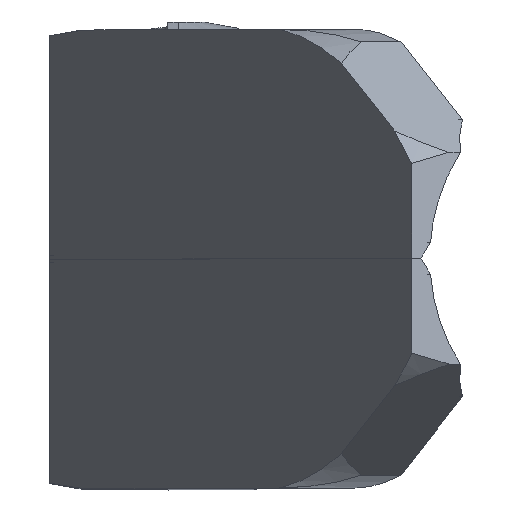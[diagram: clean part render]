
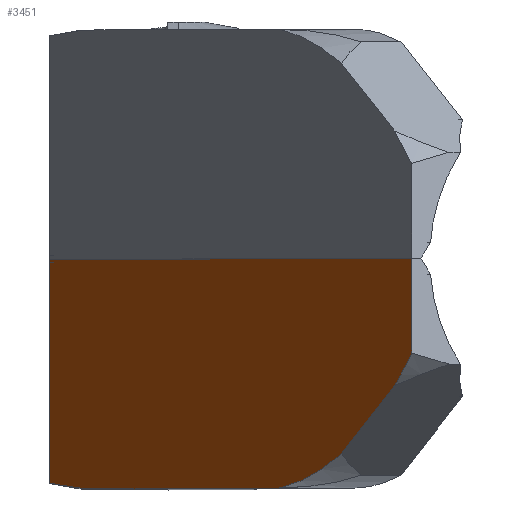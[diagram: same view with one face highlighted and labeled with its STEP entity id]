
A CAD part, top view. The second image highlights one B-rep face of the part: STEP entity #3451.
In plain terms, the highlighted planar face has unit normal (-0.866, 0, 0.5).
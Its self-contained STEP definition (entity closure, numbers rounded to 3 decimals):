
#73 = EDGE_CURVE ( 'NONE', #4673, #4752, #692, .T. ) ;
#78 = EDGE_CURVE ( 'NONE', #4509, #4508, #1002, .T. ) ;
#169 = ORIENTED_EDGE ( 'NONE', *, *, #78, .F. ) ;
#170 = ORIENTED_EDGE ( 'NONE', *, *, #1269, .F. ) ;
#171 = ORIENTED_EDGE ( 'NONE', *, *, #3263, .F. ) ;
#172 = ORIENTED_EDGE ( 'NONE', *, *, #675, .T. ) ;
#173 = ORIENTED_EDGE ( 'NONE', *, *, #1265, .F. ) ;
#174 = ORIENTED_EDGE ( 'NONE', *, *, #676, .F. ) ;
#175 = ORIENTED_EDGE ( 'NONE', *, *, #673, .T. ) ;
#176 = ORIENTED_EDGE ( 'NONE', *, *, #672, .F. ) ;
#177 = ORIENTED_EDGE ( 'NONE', *, *, #73, .F. ) ;
#178 = ORIENTED_EDGE ( 'NONE', *, *, #4766, .F. ) ;
#568 = LINE ( 'NONE', #2472, #588 ) ;
#588 = VECTOR ( 'NONE', #2471, 1000. ) ;
#604 = VECTOR ( 'NONE', #2796, 1000. ) ;
#606 = LINE ( 'NONE', #2797, #604 ) ;
#616 = LINE ( 'NONE', #2814, #657 ) ;
#657 = VECTOR ( 'NONE', #2813, 1000. ) ;
#672 = EDGE_CURVE ( 'NONE', #4752, #4684, #998, .T. ) ;
#673 = EDGE_CURVE ( 'NONE', #4632, #4684, #999, .T. ) ;
#675 = EDGE_CURVE ( 'NONE', #4519, #4546, #996, .T. ) ;
#676 = EDGE_CURVE ( 'NONE', #4632, #4516, #3343, .T. ) ;
#692 = CIRCLE ( 'NONE', #4782, 31.031 ) ;
#994 = VECTOR ( 'NONE', #4403, 1000. ) ;
#996 = LINE ( 'NONE', #4404, #994 ) ;
#997 = VECTOR ( 'NONE', #4408, 1000. ) ;
#998 = CIRCLE ( 'NONE', #4785, 25.4 ) ;
#999 = LINE ( 'NONE', #4409, #997 ) ;
#1002 = CIRCLE ( 'NONE', #4783, 31.031 ) ;
#1265 = EDGE_CURVE ( 'NONE', #4516, #4546, #616, .T. ) ;
#1269 = EDGE_CURVE ( 'NONE', #4747, #4509, #606, .T. ) ;
#1914 = DIRECTION ( 'NONE',  ( 0.5, 0., 0.866 ) ) ;
#1915 = DIRECTION ( 'NONE',  ( 0.866, 0., -0.5 ) ) ;
#1916 = CARTESIAN_POINT ( 'NONE',  ( -16.376, 0.001, 19.003 ) ) ;
#1917 = PLANE ( 'NONE',  #4939 ) ;
#2471 = DIRECTION ( 'NONE',  ( 0.5, 0., 0.866 ) ) ;
#2472 = CARTESIAN_POINT ( 'NONE',  ( -16.376, 0.001, 19.003 ) ) ;
#2796 = DIRECTION ( 'NONE',  ( 0., -1., 0. ) ) ;
#2797 = CARTESIAN_POINT ( 'NONE',  ( 17.555, 0.006, 77.774 ) ) ;
#2813 = DIRECTION ( 'NONE',  ( -0.498, 0.088, -0.863 ) ) ;
#2814 = CARTESIAN_POINT ( 'NONE',  ( -7.551, -16.263, 34.291 ) ) ;
#3263 = EDGE_CURVE ( 'NONE', #4519, #4747, #568, .T. ) ;
#3343 = B_SPLINE_CURVE_WITH_KNOTS ( 'NONE', 3,
 ( #4402, #4401, #4400, #4399 ),
 .UNSPECIFIED., .F., .F.,
 ( 4, 4 ),
 ( -0.002, 0.001 ),
 .UNSPECIFIED. ) ;
#3451 = ADVANCED_FACE ( 'NONE', ( #5333 ), #1917, .F. ) ;
#3890 = DIRECTION ( 'NONE',  ( -0.422, -0.537, -0.731 ) ) ;
#3891 = CARTESIAN_POINT ( 'NONE',  ( 16.343, -9.158, 75.675 ) ) ;
#3926 = CARTESIAN_POINT ( 'NONE',  ( 8.094, -16.503, 61.389 ) ) ;
#3929 = CARTESIAN_POINT ( 'NONE',  ( 17.555, 0.006, 77.774 ) ) ;
#3994 = CARTESIAN_POINT ( 'NONE',  ( 7.904, -16.506, 61.059 ) ) ;
#4008 = CARTESIAN_POINT ( 'NONE',  ( 12.5, -14.049, 69.019 ) ) ;
#4050 = CARTESIAN_POINT ( 'NONE',  ( -5.962, -16.507, 37.042 ) ) ;
#4136 = CARTESIAN_POINT ( 'NONE',  ( -8.496, -16.096, 32.653 ) ) ;
#4163 = CARTESIAN_POINT ( 'NONE',  ( -8.496, 0.002, 32.652 ) ) ;
#4166 = CARTESIAN_POINT ( 'NONE',  ( -7.551, -16.263, 34.291 ) ) ;
#4173 = CARTESIAN_POINT ( 'NONE',  ( 17.555, -6.813, 77.775 ) ) ;
#4174 = CARTESIAN_POINT ( 'NONE',  ( 16.343, -9.158, 75.675 ) ) ;
#4399 = CARTESIAN_POINT ( 'NONE',  ( -7.551, -16.263, 34.291 ) ) ;
#4400 = CARTESIAN_POINT ( 'NONE',  ( -7.022, -16.356, 35.207 ) ) ;
#4401 = CARTESIAN_POINT ( 'NONE',  ( -6.492, -16.439, 36.124 ) ) ;
#4402 = CARTESIAN_POINT ( 'NONE',  ( -5.962, -16.507, 37.042 ) ) ;
#4403 = DIRECTION ( 'NONE',  ( 0., -1., 0. ) ) ;
#4404 = CARTESIAN_POINT ( 'NONE',  ( -8.496, 17.465, 32.651 ) ) ;
#4408 = DIRECTION ( 'NONE',  ( 0.5, 0., 0.866 ) ) ;
#4409 = CARTESIAN_POINT ( 'NONE',  ( -5.962, -16.507, 37.042 ) ) ;
#4410 = DIRECTION ( 'NONE',  ( 0.5, 0., 0.866 ) ) ;
#4411 = DIRECTION ( 'NONE',  ( 0.866, 0., -0.5 ) ) ;
#4412 = CARTESIAN_POINT ( 'NONE',  ( 7.904, 8.894, 61.058 ) ) ;
#4434 = DIRECTION ( 'NONE',  ( 0.5, 0., 0.866 ) ) ;
#4435 = DIRECTION ( 'NONE',  ( 0.866, 0., -0.5 ) ) ;
#4436 = CARTESIAN_POINT ( 'NONE',  ( 6.181, 14.292, 58.073 ) ) ;
#4459 = DIRECTION ( 'NONE',  ( 0.5, 0., 0.866 ) ) ;
#4460 = DIRECTION ( 'NONE',  ( 0.866, 0., -0.5 ) ) ;
#4461 = CARTESIAN_POINT ( 'NONE',  ( 6.181, 14.292, 58.073 ) ) ;
#4508 = VERTEX_POINT ( 'NONE', #4174 ) ;
#4509 = VERTEX_POINT ( 'NONE', #4173 ) ;
#4516 = VERTEX_POINT ( 'NONE', #4166 ) ;
#4519 = VERTEX_POINT ( 'NONE', #4163 ) ;
#4546 = VERTEX_POINT ( 'NONE', #4136 ) ;
#4632 = VERTEX_POINT ( 'NONE', #4050 ) ;
#4673 = VERTEX_POINT ( 'NONE', #4008 ) ;
#4684 = VERTEX_POINT ( 'NONE', #3994 ) ;
#4747 = VERTEX_POINT ( 'NONE', #3929 ) ;
#4752 = VERTEX_POINT ( 'NONE', #3926 ) ;
#4766 = EDGE_CURVE ( 'NONE', #4508, #4673, #5323, .T. ) ;
#4782 = AXIS2_PLACEMENT_3D ( 'NONE', #4461, #4460, #4459 ) ;
#4783 = AXIS2_PLACEMENT_3D ( 'NONE', #4436, #4435, #4434 ) ;
#4785 = AXIS2_PLACEMENT_3D ( 'NONE', #4412, #4411, #4410 ) ;
#4939 = AXIS2_PLACEMENT_3D ( 'NONE', #1916, #1915, #1914 ) ;
#5193 = EDGE_LOOP ( 'NONE', ( #169, #170, #171, #172, #173, #174, #175, #176, #177, #178 ) ) ;
#5322 = VECTOR ( 'NONE', #3890, 1000. ) ;
#5323 = LINE ( 'NONE', #3891, #5322 ) ;
#5333 = FACE_OUTER_BOUND ( 'NONE', #5193, .T. ) ;
